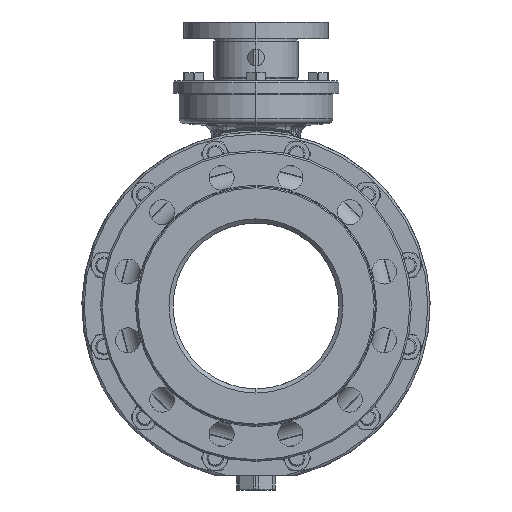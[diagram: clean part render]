
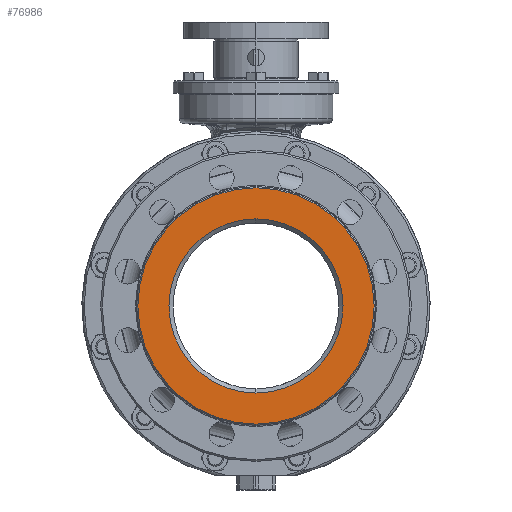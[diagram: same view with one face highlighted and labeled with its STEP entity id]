
A CAD part, left-side view. The second image highlights one B-rep face of the part: STEP entity #76986.
In plain terms, the highlighted planar face has unit normal (-1, 0, 0).
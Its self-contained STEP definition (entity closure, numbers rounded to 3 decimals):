
#14256=CARTESIAN_POINT('',(-228.5,0.,0.));
#14257=DIRECTION('',(1.,0.,0.));
#14258=DIRECTION('',(0.,0.,1.));
#14259=AXIS2_PLACEMENT_3D('',#14256,#14257,#14258);
#14265=CARTESIAN_POINT('',(-228.5,0.,0.));
#14266=DIRECTION('',(-1.,0.,0.));
#14267=DIRECTION('',(0.,0.,1.));
#14268=AXIS2_PLACEMENT_3D('',#14265,#14266,#14267);
#14270=CARTESIAN_POINT('',(-228.5,0.,0.));
#14271=DIRECTION('',(1.,0.,0.));
#14272=DIRECTION('',(0.,0.,1.));
#14273=AXIS2_PLACEMENT_3D('',#14270,#14271,#14272);
#14275=CARTESIAN_POINT('',(-228.5,0.,0.));
#14276=DIRECTION('',(-1.,0.,0.));
#14277=DIRECTION('',(0.,0.,1.));
#14278=AXIS2_PLACEMENT_3D('',#14275,#14276,#14277);
#40939=CARTESIAN_POINT('',(-228.5,0.,105.));
#40940=CARTESIAN_POINT('',(-228.5,0.,-105.));
#40941=VERTEX_POINT('',#40939);
#40942=VERTEX_POINT('',#40940);
#40961=CARTESIAN_POINT('',(-228.5,0.,142.5));
#40962=CARTESIAN_POINT('',(-228.5,0.,-142.5));
#40963=VERTEX_POINT('',#40961);
#40964=VERTEX_POINT('',#40962);
#76971=CARTESIAN_POINT('',(-228.5,0.,0.));
#76972=DIRECTION('',(-1.,0.,0.));
#76973=DIRECTION('',(0.,0.,-1.));
#76974=AXIS2_PLACEMENT_3D('',#76971,#76972,#76973);
#76975=PLANE('',#76974);
#76977=ORIENTED_EDGE('',*,*,#76976,.T.);
#76979=ORIENTED_EDGE('',*,*,#76978,.F.);
#76980=EDGE_LOOP('',(#76977,#76979));
#76981=FACE_OUTER_BOUND('',#76980,.F.);
#76982=ORIENTED_EDGE('',*,*,#76965,.T.);
#76983=ORIENTED_EDGE('',*,*,#76951,.F.);
#76984=EDGE_LOOP('',(#76982,#76983));
#76985=FACE_BOUND('',#76984,.F.);
#76986=ADVANCED_FACE('',(#76981,#76985),#76975,.T.);
#14260=CIRCLE('',#14259,105.);
#14269=CIRCLE('',#14268,105.);
#14274=CIRCLE('',#14273,142.5);
#14279=CIRCLE('',#14278,142.5);
#76951=EDGE_CURVE('',#40941,#40942,#14260,.T.);
#76965=EDGE_CURVE('',#40941,#40942,#14269,.T.);
#76976=EDGE_CURVE('',#40963,#40964,#14274,.T.);
#76978=EDGE_CURVE('',#40963,#40964,#14279,.T.);
